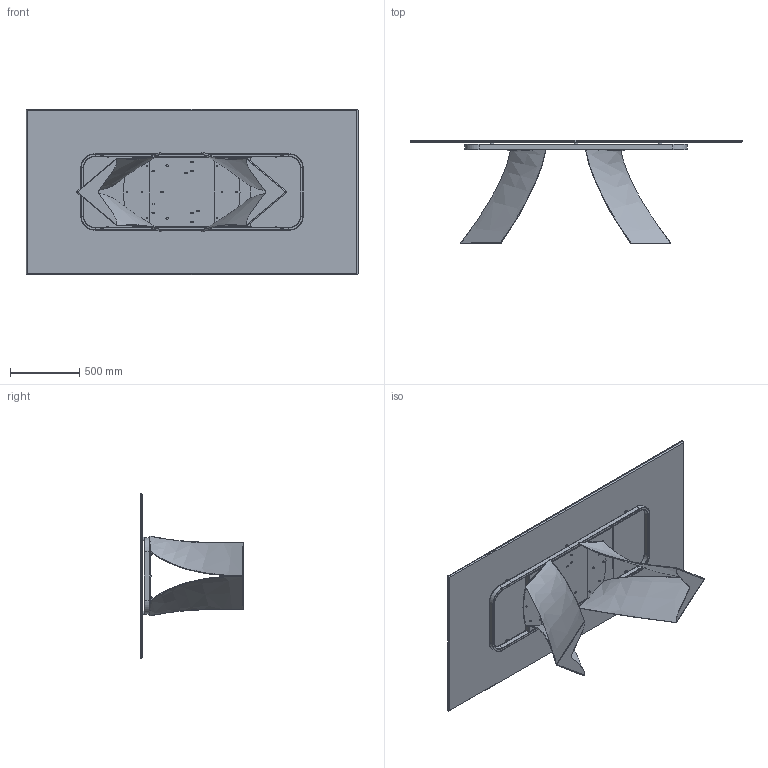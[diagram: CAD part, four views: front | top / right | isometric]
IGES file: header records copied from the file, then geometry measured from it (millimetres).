
Start section: SolidWorks IGES file using analytic representation for surfaces
Global section: file name: Y:\eforma\TECNICO\SOLIDWORKS\E-FORMA\1-TAVOLI\TWIST\02 parts\TW22C.IGS; native system: SolidWorks 2022; preprocessor: SolidWorks 2022; author: eforma.tech; date: 240807.144328; units: millimetre
Bounding box: 2390 x 741.37 x 1190 mm (x, y, z)
Volume: 55692650.5 mm3; surface area: 15869059.1 mm2
Topology: 57 solids, 57 shells, 1122 faces, 2618 edges, 1598 vertices
Faces by surface type: revolution 618, plane 438, bspline 66
